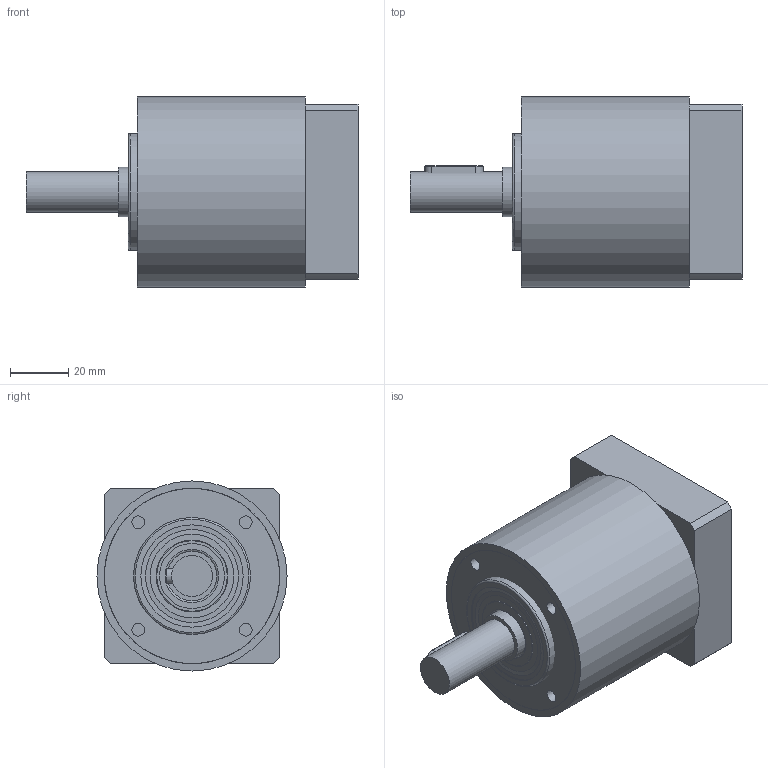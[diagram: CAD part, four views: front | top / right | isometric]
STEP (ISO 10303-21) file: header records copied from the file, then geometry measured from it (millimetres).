
FILE_DESCRIPTION(/* description */ (''),/* implementation_level */ '2;1');
FILE_NAME(/* name */ 'E0001806MP060407151130',/* time_stamp */ '2007-04-06T15:12:33+02:00',/* author */ (''),/* organization */ (''),/* preprocessor_version */ 'ST-DEVELOPER v9',/* originating_system */ 'EDS PLM SOLUTIONS - UNIGRAPHICS NX 2.0',/* authorisation */ '');
FILE_SCHEMA (('CONFIG_CONTROL_DESIGN'));
Length unit declared in the file: millimetre
Products named in the file (1): E0001806MP060407151130_u3d
Bounding box: 113.55 x 65 x 65 mm (x, y, z)
Volume: 318662 mm3; surface area: 68676.8 mm2
Topology: 12 solids, 12 shells, 135 faces, 279 edges, 177 vertices
Faces by surface type: cylinder 51, plane 48, cone 26, torus 10
Full cylindrical faces by diameter (mm): 3.432 x9, 4.351 x4, 4.5 x1, 6.35 x1, 7.5 x1, 9.75 x1, 10 x1, 14 x1, 15 x1, 17 x2, 22.2 x2, 24.5 x2, 32.9 x2, 35 x4, 35.5 x1, 38.1 x1, 40 x1, 43 x1, 50 x1, 57.4 x1, 59.85 x1, 60 x2, 65 x1
Entity records: 3178 total; most frequent: CARTESIAN_POINT 567, DIRECTION 564, ORIENTED_EDGE 352, AXIS2_PLACEMENT_3D 255, EDGE_LOOP 234, EDGE_CURVE 176, FACE_BOUND 163, VERTEX_POINT 160
